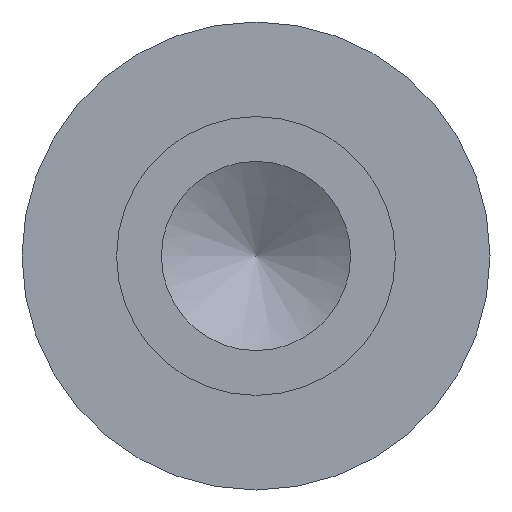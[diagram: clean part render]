
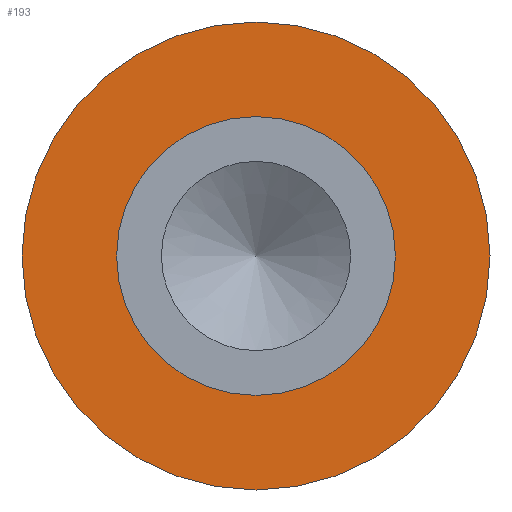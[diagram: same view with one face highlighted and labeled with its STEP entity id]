
A CAD part, left-side view. The second image highlights one B-rep face of the part: STEP entity #193.
In plain terms, the highlighted planar face has unit normal (-1, 0, 0).
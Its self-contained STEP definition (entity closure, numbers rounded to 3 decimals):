
#15=FACE_BOUND($,#67,.T.);
#36=CIRCLE($,#217,1.422);
#38=CIRCLE($,#220,2.388);
#51=FACE_OUTER_BOUND($,#66,.T.);
#66=EDGE_LOOP($,(#155));
#67=EDGE_LOOP($,(#156));
#106=VERTEX_POINT($,#330);
#108=VERTEX_POINT($,#335);
#127=EDGE_CURVE($,#106,#106,#36,.T.);
#129=EDGE_CURVE($,#108,#108,#38,.T.);
#155=ORIENTED_EDGE($,*,*,#129,.F.);
#156=ORIENTED_EDGE($,*,*,#127,.T.);
#181=PLANE($,#219);
#193=ADVANCED_FACE($,(#51,#15),#181,.T.);
#217=AXIS2_PLACEMENT_3D($,#331,#269,#270);
#219=AXIS2_PLACEMENT_3D($,#334,#273,#274);
#220=AXIS2_PLACEMENT_3D($,#336,#275,#276);
#269=DIRECTION('center_axis',(1.,0.,0.));
#270=DIRECTION('ref_axis',(0.,1.,0.));
#273=DIRECTION('center_axis',(-1.,0.,0.));
#274=DIRECTION('ref_axis',(0.,0.,1.));
#275=DIRECTION('center_axis',(1.,0.,0.));
#276=DIRECTION('ref_axis',(0.,1.,0.));
#330=CARTESIAN_POINT('',(2.769,1.422,0.));
#331=CARTESIAN_POINT('Origin',(2.769,0.,0.));
#334=CARTESIAN_POINT('Origin',(2.769,1.905,0.));
#335=CARTESIAN_POINT('',(2.769,2.388,0.));
#336=CARTESIAN_POINT('Origin',(2.769,0.,0.));
